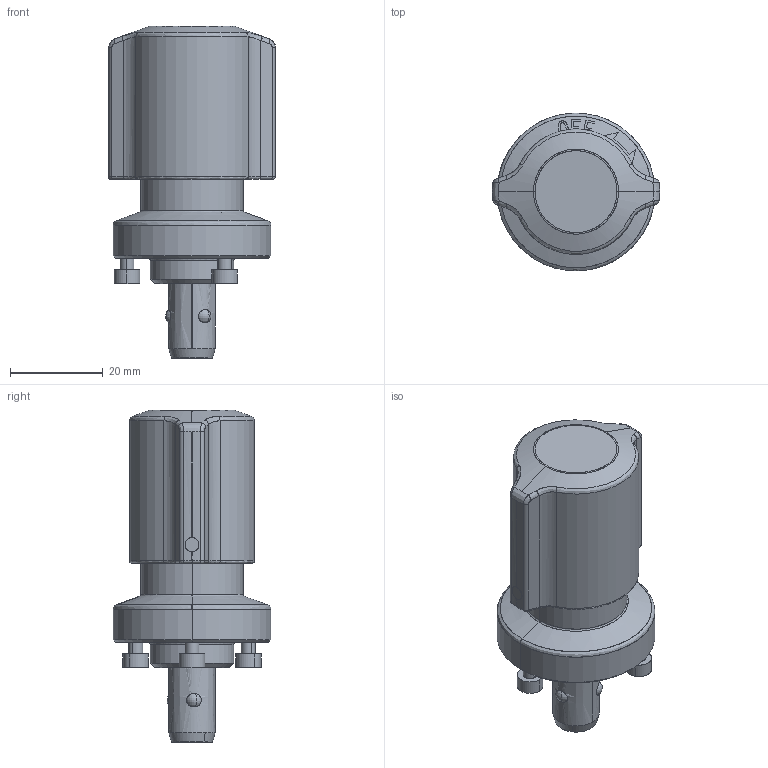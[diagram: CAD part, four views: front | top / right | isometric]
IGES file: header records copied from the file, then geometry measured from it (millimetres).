
Start section: SolidWorks IGES file using analytic representation for surfaces
Bounding box: 36 x 34 x 71.5 mm (x, y, z)
Surface area: 18576.9 mm2 (no closed solid volume)
Topology: 0 solids, 0 shells, 253 faces, 3612 edges, 3612 vertices
Faces by surface type: bspline 160, revolution 93
